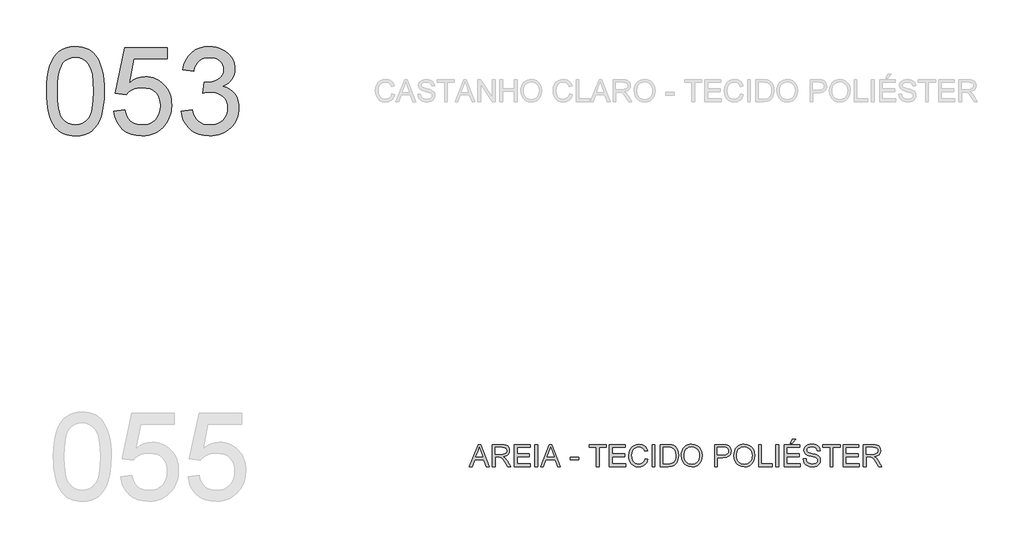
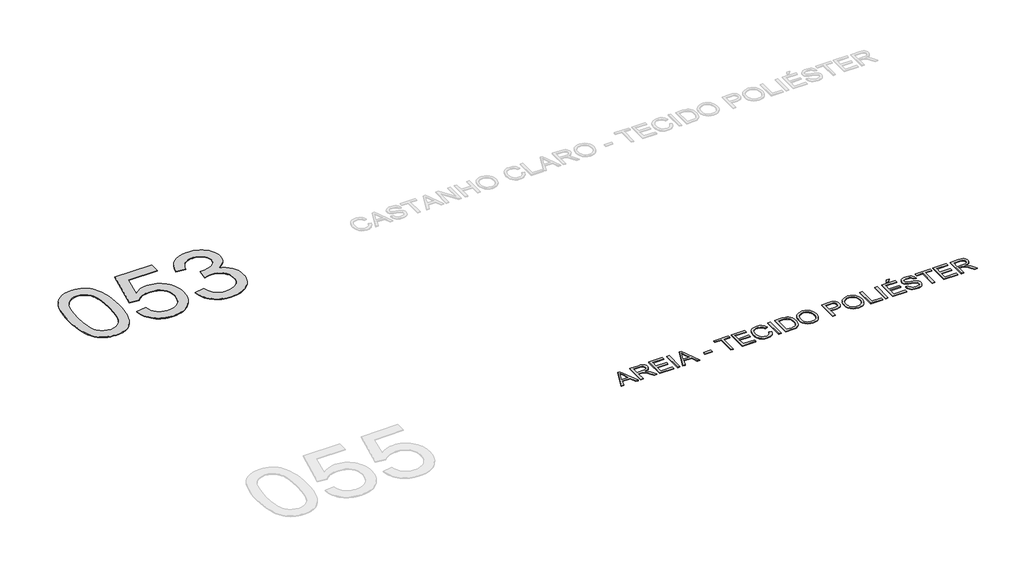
# One storey, part 21 of 35: 2 proxies.
"""IFC4 building model written with IfcOpenShell, lengths in millimetres."""

from ifc_helpers import new_model, si_unit, origin, origin_with_axes, place, context, project, spatial, polyline, outline, extrude, element, save

model = new_model("IFC4")

# Units and contexts
model_context = context("Model", 3, world=origin())
ifc_project = project(units=[si_unit("LENGTHUNIT", "METRE", prefix="MILLI")], contexts=[model_context])

# Site, building, storey
site = spatial("IfcSite", under=ifc_project)
building = spatial("IfcBuilding", under=site)
storey = spatial("IfcBuildingStorey", under=building, Name="Marelli - Linha YOU - Planta Baixa", Elevation=0.0)

# Proxies
placement = place(None, origin())
element("IfcBuildingElementProxy", 1, Name="1200mm Arial", ObjectType="1200mm Arial", at=placement, inside=storey, context=model_context, shape_type="SweptSolid", body=[
    extrude(outline(polyline([(-25228.2202746, -34887.5405438), (-25225.4519626, -34786.1798571), (-25217.1470265, -34694.5864374), (-25203.3054665, -34612.7602846), (-25183.9272824, -34540.7013988), (-25159.0952477, -34477.8211688), (-25128.8921359, -34423.5309833), (-25093.317947, -34377.8308425), (-25052.3726809, -34340.7207462), (-25005.918382, -34312.0075565), (-24953.8170944, -34291.4981353), (-24896.0688182, -34279.1924825), (-24832.6735534, -34275.0905983), (-24785.032835, -34277.5186194), (-24739.8201378, -34284.8026829), (-24697.0354618, -34296.9427888), (-24656.6788069, -34313.938937), (-24619.7250605, -34335.5060189), (-24587.1491098, -34361.3589261), (-24558.9509549, -34391.4976586), (-24535.1305957, -34425.9222163), (-24514.4924157, -34464.4946435), (-24495.8407986, -34507.0769844), (-24464.4972526, -34604.2714076), (-24452.5226937, -34661.4310726), (-24443.9694373, -34727.6958169), (-24438.8374834, -34803.0656407), (-24437.1268322, -34887.5405438), (-24439.867553, -34988.2574371), (-24448.0897156, -35079.3910043), (-24461.7933199, -35160.9412456), (-24480.978366, -35232.9081609), (-24505.6172626, -35295.8159821), (-24535.6824187, -35350.188941), (-24571.1738342, -35396.0270376), (-24612.0915091, -35433.3302719), (-24658.6009903, -35462.2365997), (-24710.8678248, -35482.8839766), (-24768.8920125, -35495.2724028), (-24832.6735534, -35499.4018782), (-24875.3478648, -35497.6084535), (-24915.6677315, -35492.2281793), (-24953.6331534, -35483.2610557), (-24989.2441305, -35470.7070826), (-25022.5006629, -35454.5662601), (-25053.4027505, -35434.8385881), (-25081.9503933, -35411.5240666), (-25108.1435914, -35384.6226957), (-25136.286564, -35342.0265592), (-25160.6771403, -35293.8478134), (-25181.3153202, -35240.0864583), (-25198.2011038, -35180.742494), (-25211.334491, -35115.8159204), (-25220.7154819, -35045.3067375), (-25226.3440764, -34969.2149453), (-25228.2202746, -34887.5405438)]), holes=[polyline([(-25077.5358094, -34887.2462382), (-25073.1212254, -35018.2398197), (-25059.8774736, -35124.2726077), (-25049.9446597, -35167.9287043), (-25037.8045539, -35205.3446024), (-25023.4571561, -35236.5203023), (-25006.9024663, -35261.4558037), (-24969.5256556, -35299.6327578), (-24928.0285665, -35326.9020107), (-24882.4111991, -35343.2635624), (-24832.6735534, -35348.717413), (-24782.9359076, -35343.2451683), (-24737.3185402, -35326.8284343), (-24695.8214512, -35299.4672109), (-24658.4446405, -35261.1614981), (-24641.8899507, -35236.1662158), (-24627.5425529, -35204.9583263), (-24615.402447, -35167.5378296), (-24605.4696332, -35123.9047257), (-24592.2258813, -35018.0006964), (-24587.8112974, -34887.2462382), (-24592.0787285, -34759.7199446), (-24604.881022, -34655.5541577), (-24614.482742, -34612.2314542), (-24626.2181777, -34574.7488774), (-24640.0873289, -34543.1064273), (-24656.0901957, -34517.3041039), (-24692.841607, -34477.2601487), (-24734.8169427, -34448.6573236), (-24782.0162026, -34431.4956285), (-24834.4393869, -34425.7750635), (-24883.9195153, -34430.8150468), (-24928.7643305, -34445.9349968), (-24968.9738326, -34471.1349135), (-25004.5480215, -34506.4147968), (-25021.6545343, -34534.9624397), (-25036.4801787, -34568.954736), (-25049.0249547, -34608.3916859), (-25059.2888624, -34653.2732893), (-25072.9740726, -34759.3704567), (-25077.5358094, -34887.2462382)])]), origin_with_axes(), (0.0, 0.0, 1.0), 10.0),
    extrude(outline(polyline([(-24305.2779251, -35160.3618315), (-24154.5934599, -35141.5262733), (-24143.3362708, -35189.967135), (-24126.9287338, -35231.9884559), (-24105.3708489, -35267.590236), (-24078.6626161, -35296.7724753), (-24046.8592176, -35319.4983855), (-24010.0158358, -35335.7311786), (-23968.1324706, -35345.4708544), (-23921.2091221, -35348.717413), (-23863.8195309, -35344.2016615), (-23813.1989683, -35330.654407), (-23769.3474345, -35308.0756496), (-23732.2649294, -35276.4653891), (-23702.7791875, -35237.3871242), (-23681.7179433, -35192.4043532), (-23669.0811967, -35141.5170763), (-23664.8689479, -35084.7252933), (-23668.8144823, -35031.0513102), (-23680.6510855, -34983.3370154), (-23700.3787575, -34941.5824089), (-23727.9974983, -34905.7874908), (-23763.5992783, -34877.0743011), (-23807.2760682, -34856.5648798), (-23859.0278679, -34844.2592271), (-23918.8546774, -34840.1573429), (-23957.141996, -34841.7944177), (-23991.9528298, -34846.7056424), (-24023.2871787, -34854.8910168), (-24051.1450428, -34866.3505409), (-24098.4178792, -34896.4432881), (-24135.7579017, -34934.3351336), (-24286.4423669, -34915.4995755), (-24154.5934599, -34293.9261564), (-23570.6911571, -34293.9261564), (-23570.6911571, -34444.6106216), (-24032.7509431, -34444.6106216), (-24097.2038686, -34776.5873341), (-24044.0265262, -34738.4747594), (-23989.5615968, -34711.2514918), (-23933.8090805, -34694.9175312), (-23876.7689771, -34689.4728776), (-23839.3300863, -34691.1605363), (-23803.3857161, -34696.2235123), (-23768.9358665, -34704.6618055), (-23735.9805376, -34716.4754161), (-23704.5197292, -34731.664344), (-23674.5534414, -34750.2285891), (-23646.0816742, -34772.1681516), (-23619.1044277, -34797.4830314), (-23594.5138156, -34825.4512601), (-23573.2019517, -34855.3508693), (-23555.1688362, -34887.1818589), (-23540.4144689, -34920.944229), (-23528.9388499, -34956.6379796), (-23520.7419792, -34994.2631106), (-23515.8238568, -35033.8196222), (-23514.1844827, -35075.3075142), (-23520.0889887, -35153.3720736), (-23527.4696212, -35190.3626082), (-23537.8025067, -35225.9919794), (-23551.0876453, -35260.2601873), (-23567.3250369, -35293.1672317), (-23586.5146814, -35324.7131128), (-23608.656579, -35354.8978305), (-23638.6573557, -35388.7659667), (-23671.2700946, -35418.1183514), (-23706.4947956, -35442.9549846), (-23744.3314588, -35463.2758663), (-23784.7800842, -35479.0809965), (-23827.8406717, -35490.3703752), (-23873.5132214, -35497.1440025), (-23921.7977333, -35499.4018782), (-23999.55879, -35493.5985397), (-24035.6181234, -35486.3443667), (-24069.79666, -35476.1885243), (-24102.0943999, -35463.1310128), (-24132.5113431, -35447.171832), (-24161.0474896, -35428.3109819), (-24187.7028394, -35406.5484626), (-24212.0405327, -35382.3901119), (-24233.6237095, -35356.3417673), (-24252.4523698, -35328.4034291), (-24268.5265138, -35298.5750971), (-24281.8461413, -35266.8567713), (-24292.4112523, -35233.2484518), (-24305.2779251, -35160.3618315)])), origin_with_axes(), (0.0, 0.0, 1.0), 10.0),
    extrude(outline(polyline([(-23382.3355756, -35160.3618315), (-23231.6511104, -35141.5262733), (-23216.7426925, -35192.7170529), (-23197.9163314, -35236.2190989), (-23175.1720271, -35272.0324111), (-23148.5097795, -35300.1569896), (-23117.3225833, -35321.4021749), (-23081.0034333, -35336.5773072), (-23039.5523295, -35345.6823865), (-22992.9692719, -35348.717413), (-22938.3755838, -35344.5419524), (-22889.6680076, -35332.0155704), (-22846.8465434, -35311.1382672), (-22809.9111911, -35281.9100427), (-22780.1679318, -35246.5197947), (-22758.9227466, -35207.1564213), (-22746.1756354, -35163.8199222), (-22741.9265984, -35116.5102976), (-22746.1388472, -35071.4539503), (-22758.7755938, -35030.462699), (-22779.836838, -34993.5365437), (-22809.3225799, -34960.6754845), (-22845.301439, -34933.7005372), (-22885.8420349, -34914.4327177), (-22930.9443675, -34902.872026), (-22980.6084369, -34899.0184621), (-23028.212367, -34903.1387404), (-23086.2641459, -34915.4995755), (-23069.4887269, -34764.8151103), (-23045.355668, -34766.5809438), (-22999.0209307, -34763.8770112), (-22955.0774264, -34755.7652132), (-22913.525155, -34742.2455498), (-22874.3641166, -34723.3180212), (-22841.1443725, -34698.7802921), (-22817.4159838, -34668.4300275), (-22803.1789506, -34632.2672274), (-22798.4332728, -34590.2918917), (-22801.8729695, -34556.2168219), (-22812.1920595, -34525.2135668), (-22829.3905427, -34497.2821263), (-22853.4684193, -34472.4225005), (-22882.9725553, -34452.0142468), (-22916.4498169, -34437.4369227), (-22953.900204, -34428.6905283), (-22995.3237167, -34425.7750635), (-23036.6368647, -34428.7181195), (-23074.3447692, -34437.5472873), (-23108.4474302, -34452.2625671), (-23138.9448476, -34472.8639589), (-23165.0828633, -34499.3514625), (-23186.1073194, -34531.7250781), (-23202.0182157, -34569.9848056), (-23212.8155522, -34614.130645), (-23363.5000174, -34595.2950869), (-23345.6393466, -34523.3557627), (-23319.1334488, -34459.988089), (-23283.9823242, -34405.1920659), (-23240.1859727, -34358.9676932), (-23189.1239517, -34322.2714642), (-23132.1758189, -34296.059872), (-23069.3415741, -34280.3329167), (-23000.6212174, -34275.0905983), (-22952.2907203, -34277.6749693), (-22905.8916036, -34285.4280823), (-22861.4238675, -34298.3499374), (-22818.8875118, -34316.4405345), (-22779.7632616, -34339.0100949), (-22745.5318419, -34365.3688399), (-22716.1932528, -34395.5167694), (-22691.7474942, -34429.4538834), (-22672.4980688, -34465.8282157), (-22658.7484793, -34503.2877999), (-22650.4987255, -34541.8326359), (-22647.7488076, -34581.4627239), (-22650.3607698, -34618.72917), (-22658.1966563, -34654.3033589), (-22671.2564671, -34688.1852907), (-22689.5402023, -34720.3749652), (-22712.9374972, -34750.1182245), (-22741.3379872, -34776.6609105), (-22774.7416724, -34800.0030231), (-22813.1485526, -34820.1445623), (-22762.9326603, -34835.8531235), (-22718.8236091, -34858.257137), (-22680.821399, -34887.3566028), (-22648.92603, -34923.151521), (-22623.6893251, -34964.7589746), (-22605.6631074, -35011.296047), (-22594.8473767, -35062.7627381), (-22591.2421332, -35119.159048), (-22593.0447549, -35158.1361454), (-22598.4526203, -35195.6049266), (-22607.4657291, -35231.5653916), (-22620.0840816, -35266.0175405), (-22636.3076776, -35298.9613731), (-22656.1365171, -35330.3968896), (-22679.5706002, -35360.3240899), (-22706.6099268, -35388.7429741), (-22736.4037699, -35414.6786547), (-22768.1014023, -35437.1562446), (-22801.7028241, -35456.1757438), (-22837.2080351, -35471.7371522), (-22874.6170355, -35483.8404698), (-22913.9298252, -35492.4856967), (-22955.1464043, -35497.6728328), (-22998.2667726, -35499.4018782), (-23074.491922, -35493.4973722), (-23110.066111, -35486.1167397), (-23143.9480427, -35475.7838541), (-23176.1377173, -35462.4987156), (-23206.6351347, -35446.261324), (-23235.4402949, -35427.0716794), (-23262.553198, -35404.9297819), (-23287.4082253, -35380.4426366), (-23309.4397582, -35354.2172488), (-23328.6477969, -35326.2536187), (-23345.0323413, -35296.5517461), (-23358.5933913, -35265.1116311), (-23369.3309471, -35231.9332736), (-23382.3355756, -35160.3618315)])), origin_with_axes(), (0.0, 0.0, 1.0), 10.0),
])
element("IfcBuildingElementProxy", 2, Name="300mm Arial", ObjectType="300mm Arial", at=placement, inside=storey, context=model_context, shape_type="SweptSolid", body=[
    extrude(outline(polyline([(-19432.6175582, -40030.5663201), (-19312.3201458, -39729.1973896), (-19280.2408358, -39729.1973896), (-19159.9434234, -40030.5663201), (-19199.7482553, -40030.5663201), (-19234.2555864, -39936.3885293), (-19358.3789716, -39936.3885293), (-19392.8127264, -40030.5663201), (-19432.6175582, -40030.5663201)]), holes=[polyline([(-19344.5466086, -39898.717413), (-19248.0143731, -39898.717413), (-19275.1640643, -39824.6259792), (-19296.2804908, -39766.8685059), (-19315.0424726, -39818.1512561), (-19344.5466086, -39898.717413)])]), origin_with_axes(), (0.0, 0.0, 1.0), 10.0),
    extrude(outline(polyline([(-19119.6971331, -40030.5663201), (-19119.6971331, -39729.1973896), (-18989.8347888, -39729.1973896), (-18954.9319846, -39731.2299376), (-18929.5389298, -39737.3275817), (-18910.9792832, -39748.5847708), (-18896.5767031, -39766.0959537), (-18887.3336679, -39787.8101885), (-18884.2526562, -39811.6765329), (-18889.3570189, -39841.3646099), (-18904.670107, -39865.9759154), (-18916.2698861, -39876.0052983), (-18930.6517729, -39884.0205273), (-18967.7618691, -39894.0085235), (-18946.351137, -39910.1217548), (-18915.8169314, -39948.8965171), (-18865.5642509, -40030.5663201), (-18909.3422083, -40030.5663201), (-18948.558429, -39968.0999573), (-18976.8853426, -39926.750021), (-18996.7877586, -39907.2154871), (-19014.7036117, -39900.0417882), (-19036.5558022, -39898.717413), (-19082.0260168, -39898.717413), (-19082.0260168, -40030.5663201), (-19119.6971331, -40030.5663201)]), holes=[polyline([(-19082.0260168, -39861.0462967), (-18997.7074635, -39861.0462967), (-18973.4916312, -39859.7127245), (-18954.7020583, -39855.7120078), (-18940.5569956, -39848.7774322), (-18930.2746938, -39838.6422832), (-18924.0115029, -39826.3826157), (-18921.9237725, -39813.0744845), (-18925.9060951, -39794.6987789), (-18937.8530629, -39779.8915286), (-18958.4084694, -39770.1242616), (-18988.2161081, -39766.8685059), (-19082.0260168, -39766.8685059), (-19082.0260168, -39861.0462967)])]), origin_with_axes(), (0.0, 0.0, 1.0), 10.0),
    extrude(outline(polyline([(-18818.3282027, -40030.5663201), (-18818.3282027, -39729.1973896), (-18601.7192839, -39729.1973896), (-18601.7192839, -39766.8685059), (-18780.6570864, -39766.8685059), (-18780.6570864, -39856.3374072), (-18611.137063, -39856.3374072), (-18611.137063, -39894.0085235), (-18780.6570864, -39894.0085235), (-18780.6570864, -39992.8952038), (-18597.0103944, -39992.8952038), (-18597.0103944, -40030.5663201), (-18818.3282027, -40030.5663201)])), origin_with_axes(), (0.0, 0.0, 1.0), 10.0),
    extrude(outline(polyline([(-18535.7948304, -40030.5663201), (-18535.7948304, -39729.1973896), (-18498.1237141, -39729.1973896), (-18498.1237141, -40030.5663201), (-18535.7948304, -40030.5663201)])), origin_with_axes(), (0.0, 0.0, 1.0), 10.0),
    extrude(outline(polyline([(-18457.8774238, -40030.5663201), (-18337.5800114, -39729.1973896), (-18305.5007014, -39729.1973896), (-18185.203289, -40030.5663201), (-18225.0081209, -40030.5663201), (-18259.515452, -39936.3885293), (-18383.6388372, -39936.3885293), (-18418.0725919, -40030.5663201), (-18457.8774238, -40030.5663201)]), holes=[polyline([(-18369.8064742, -39898.717413), (-18273.2742386, -39898.717413), (-18300.4239299, -39824.6259792), (-18321.5403564, -39766.8685059), (-18340.3023382, -39818.1512561), (-18369.8064742, -39898.717413)])]), origin_with_axes(), (0.0, 0.0, 1.0), 10.0),
    extrude(outline(polyline([(-18050.779208, -39941.0974188), (-18050.779208, -39903.4263025), (-17933.0569695, -39903.4263025), (-17933.0569695, -39941.0974188), (-18050.779208, -39941.0974188)])), origin_with_axes(), (0.0, 0.0, 1.0), 10.0),
    extrude(outline(polyline([(-17692.903603, -40030.5663201), (-17692.903603, -39766.8685059), (-17791.7902834, -39766.8685059), (-17791.7902834, -39729.1973896), (-17556.3458064, -39729.1973896), (-17556.3458064, -39766.8685059), (-17655.2324867, -39766.8685059), (-17655.2324867, -40030.5663201), (-17692.903603, -40030.5663201)])), origin_with_axes(), (0.0, 0.0, 1.0), 10.0),
    extrude(outline(polyline([(-17513.9658006, -40030.5663201), (-17513.9658006, -39729.1973896), (-17297.3568818, -39729.1973896), (-17297.3568818, -39766.8685059), (-17476.2946843, -39766.8685059), (-17476.2946843, -39856.3374072), (-17306.7746609, -39856.3374072), (-17306.7746609, -39894.0085235), (-17476.2946843, -39894.0085235), (-17476.2946843, -39992.8952038), (-17292.6479923, -39992.8952038), (-17292.6479923, -40030.5663201), (-17513.9658006, -40030.5663201)])), origin_with_axes(), (0.0, 0.0, 1.0), 10.0),
    extrude(outline(polyline([(-17024.2412886, -39923.4390831), (-16986.5701723, -39933.1511677), (-16994.0243812, -39956.5783531), (-17003.9525966, -39977.0486868), (-17016.3548183, -39994.5621691), (-17031.2310465, -40009.1187997), (-17048.2455888, -40020.5622291), (-17067.0627529, -40028.7361071), (-17087.6825387, -40033.640434), (-17110.1049463, -40035.2752096), (-17153.8001303, -40030.3271968), (-17188.5005995, -40015.4831583), (-17215.0984677, -39991.2581289), (-17234.4858489, -39958.1671434), (-17246.3224521, -39919.2636224), (-17250.2679865, -39877.6009865), (-17245.8074173, -39833.6574821), (-17232.4257097, -39795.7104543), (-17210.8218395, -39764.9647166), (-17181.6947826, -39742.6250824), (-17147.1506632, -39729.0226457), (-17109.2956059, -39724.4885001), (-17067.9916549, -39730.3562179), (-17050.0229187, -39737.6908652), (-17033.8430087, -39747.9593714), (-17019.7186393, -39760.8904235), (-17007.9165251, -39776.2127086), (-16991.2790618, -39814.0309777), (-17028.9501782, -39823.0072984), (-17042.009989, -39795.5357104), (-17059.8522657, -39776.6909552), (-17082.6977376, -39765.7924511), (-17110.7671339, -39762.1596164), (-17143.1223554, -39766.1879242), (-17169.7018295, -39778.2728478), (-17189.8709599, -39797.1451941), (-17202.9951501, -39821.5357704), (-17210.1964401, -39849.1085259), (-17212.5968701, -39877.5274101), (-17209.7549817, -39912.3290468), (-17201.2293165, -39942.421794), (-17186.6979777, -39966.6560205), (-17165.8390686, -39983.8820949), (-17140.8322899, -39994.1735937), (-17113.8573426, -39997.6040933), (-17082.4126291, -39992.931992), (-17056.210234, -39978.9156879), (-17036.4273797, -39955.702334), (-17024.2412886, -39923.4390831)])), origin_with_axes(), (0.0, 0.0, 1.0), 10.0),
    extrude(outline(polyline([(-16930.0634979, -40030.5663201), (-16930.0634979, -39729.1973896), (-16892.3923815, -39729.1973896), (-16892.3923815, -40030.5663201), (-16930.0634979, -40030.5663201)])), origin_with_axes(), (0.0, 0.0, 1.0), 10.0),
    extrude(outline(polyline([(-16817.0501489, -40030.5663201), (-16817.0501489, -39729.1973896), (-16713.0866971, -39729.1973896), (-16659.3023494, -39733.5383972), (-16635.2796551, -39741.9077126), (-16615.0093572, -39755.0962821), (-16594.1688422, -39778.0521186), (-16579.3248036, -39806.5997614), (-16570.4404535, -39840.1873876), (-16567.4790034, -39878.2631741), (-16569.4839603, -39910.6091985), (-16575.4988309, -39939.0740679), (-16584.6590926, -39963.3082943), (-16596.1002226, -39982.9623899), (-16609.2703981, -39998.477813), (-16623.6177959, -40010.2960221), (-16640.0897122, -40019.0608107), (-16659.6334432, -40025.4159721), (-16708.083502, -40030.5663201), (-16817.0501489, -40030.5663201)]), holes=[polyline([(-16779.3790326, -39992.8952038), (-16712.7188151, -39992.8952038), (-16685.1460596, -39991.5340404), (-16664.2319681, -39987.4505502), (-16648.4498305, -39980.8838566), (-16636.2729365, -39972.0730828), (-16623.1855345, -39955.7667134), (-16613.3538882, -39934.6594839), (-16607.2010618, -39908.6594239), (-16605.1501197, -39877.6745629), (-16609.1692305, -39836.6189322), (-16621.2265629, -39806.3054558), (-16639.0412485, -39785.4833349), (-16660.332419, -39772.9017706), (-16682.0006685, -39768.3768221), (-16713.7488847, -39766.8685059), (-16779.3790326, -39766.8685059), (-16779.3790326, -39992.8952038)])]), origin_with_axes(), (0.0, 0.0, 1.0), 10.0),
    extrude(outline(polyline([(-16529.8078871, -39883.8549804), (-16527.2970925, -39848.5061192), (-16519.7647086, -39817.213157), (-16507.2107355, -39789.9760937), (-16489.6351732, -39766.7949295), (-16468.0910839, -39748.2858666), (-16443.6315297, -39735.0651074), (-16416.2565108, -39727.1326519), (-16385.966027, -39724.4885001), (-16346.4371066, -39729.454907), (-16310.9916764, -39744.3541278), (-16281.5611168, -39768.1376988), (-16260.0768082, -39799.7571563), (-16246.943421, -39837.68579), (-16242.5656253, -39880.3968896), (-16247.1733473, -39923.6782064), (-16260.9965132, -39962.140269), (-16283.271768, -39993.8149087), (-16313.2357565, -40016.733957), (-16348.3776841, -40030.6398965), (-16386.1867562, -40035.2752096), (-16426.3226819, -40030.1524528), (-16461.9704472, -40014.7841825), (-16491.3274304, -39990.5591531), (-16512.5910097, -39958.8661192), (-16525.5036678, -39922.3998164), (-16529.8078871, -39883.8549804)]), holes=[polyline([(-16492.1367708, -39884.2228624), (-16490.2536748, -39909.1974513), (-16484.6043869, -39931.3669401), (-16475.1889071, -39950.7313286), (-16462.0072354, -39967.2906169), (-16445.9836752, -39980.5527628), (-16428.0425302, -39990.0257242), (-16408.1838002, -39995.709501), (-16386.4074854, -39997.6040933), (-16364.25869, -39995.6911069), (-16344.1654353, -39989.9521478), (-16326.1277212, -39980.3872159), (-16310.1455478, -39966.9963113), (-16297.0604451, -39950.0875351), (-16287.7139431, -39929.9689885), (-16282.106042, -39906.6406715), (-16280.2367416, -39880.102584), (-16283.4373149, -39846.7540812), (-16293.039035, -39817.9305269), (-16308.7935814, -39794.358488), (-16330.4526339, -39776.7645316), (-16356.5814526, -39765.8108452), (-16385.7452978, -39762.1596164), (-16406.7651553, -39763.9185522), (-16426.2674996, -39769.1953595), (-16444.2523306, -39777.9900385), (-16460.7196484, -39790.302589), (-16474.4646394, -39806.7262208), (-16484.2824902, -39827.8541437), (-16490.1732006, -39853.6863575), (-16492.1367708, -39884.2228624)])]), origin_with_axes(), (0.0, 0.0, 1.0), 10.0),
    extrude(outline(polyline([(-16073.0456019, -40030.5663201), (-16073.0456019, -39729.1973896), (-15961.3566282, -39729.1973896), (-15916.3278719, -39732.0668692), (-15896.2507121, -39737.4287493), (-15879.7236134, -39746.1567496), (-15866.4154822, -39758.6463433), (-15855.9952247, -39775.2930036), (-15849.2629842, -39794.9287051), (-15847.0189041, -39816.3854225), (-15848.534118, -39834.8852883), (-15853.0797599, -39851.9044291), (-15860.6558298, -39867.4428449), (-15871.2623275, -39881.5005356), (-15885.8235568, -39893.1531978), (-15905.2638209, -39901.476528), (-15929.5831201, -39906.470526), (-15958.7814542, -39908.1351921), (-16035.3744856, -39908.1351921), (-16035.3744856, -40030.5663201), (-16073.0456019, -40030.5663201)]), holes=[polyline([(-16035.3744856, -39870.4640758), (-15956.5741622, -39870.4640758), (-15923.1704771, -39867.005985), (-15901.0975573, -39856.6317127), (-15888.7919046, -39839.9850525), (-15884.6900204, -39817.7097977), (-15887.1088445, -39800.7872259), (-15894.3653168, -39786.5134045), (-15905.5581265, -39775.7712502), (-15919.7859627, -39769.4436799), (-15957.457079, -39766.8685059), (-16035.3744856, -39766.8685059), (-16035.3744856, -39870.4640758)])]), origin_with_axes(), (0.0, 0.0, 1.0), 10.0),
    extrude(outline(polyline([(-15809.3477877, -39883.8549804), (-15806.8369931, -39848.5061192), (-15799.3046093, -39817.213157), (-15786.7506362, -39789.9760937), (-15769.1750739, -39766.7949295), (-15747.6309845, -39748.2858666), (-15723.1714304, -39735.0651074), (-15695.7964114, -39727.1326519), (-15665.5059276, -39724.4885001), (-15625.9770072, -39729.454907), (-15590.531577, -39744.3541278), (-15561.1010174, -39768.1376988), (-15539.6167089, -39799.7571563), (-15526.4833217, -39837.68579), (-15522.1055259, -39880.3968896), (-15526.7132479, -39923.6782064), (-15540.5364139, -39962.140269), (-15562.8116687, -39993.8149087), (-15592.7756572, -40016.733957), (-15627.9175848, -40030.6398965), (-15665.7266568, -40035.2752096), (-15705.8625825, -40030.1524528), (-15741.5103478, -40014.7841825), (-15770.867331, -39990.5591531), (-15792.1309104, -39958.8661192), (-15805.0435684, -39922.3998164), (-15809.3477877, -39883.8549804)]), holes=[polyline([(-15771.6766714, -39884.2228624), (-15769.7935755, -39909.1974513), (-15764.1442876, -39931.3669401), (-15754.7288078, -39950.7313286), (-15741.547136, -39967.2906169), (-15725.5235759, -39980.5527628), (-15707.5824308, -39990.0257242), (-15687.7237009, -39995.709501), (-15665.947386, -39997.6040933), (-15643.7985907, -39995.6911069), (-15623.7053359, -39989.9521478), (-15605.6676219, -39980.3872159), (-15589.6854484, -39966.9963113), (-15576.6003457, -39950.0875351), (-15567.2538438, -39929.9689885), (-15561.6459426, -39906.6406715), (-15559.7766422, -39880.102584), (-15562.9772156, -39846.7540812), (-15572.5789356, -39817.9305269), (-15588.3334821, -39794.358488), (-15609.9925346, -39776.7645316), (-15636.1213533, -39765.8108452), (-15665.2851984, -39762.1596164), (-15686.3050559, -39763.9185522), (-15705.8074002, -39769.1953595), (-15723.7922312, -39777.9900385), (-15740.2595491, -39790.302589), (-15754.0045401, -39806.7262208), (-15763.8223908, -39827.8541437), (-15769.7131013, -39853.6863575), (-15771.6766714, -39884.2228624)])]), origin_with_axes(), (0.0, 0.0, 1.0), 10.0),
    extrude(outline(polyline([(-15470.307741, -40030.5663201), (-15470.307741, -39729.1973896), (-15432.6366247, -39729.1973896), (-15432.6366247, -39992.8952038), (-15281.9521595, -39992.8952038), (-15281.9521595, -40030.5663201), (-15470.307741, -40030.5663201)])), origin_with_axes(), (0.0, 0.0, 1.0), 10.0),
    extrude(outline(polyline([(-15234.8632641, -40030.5663201), (-15234.8632641, -39729.1973896), (-15197.1921478, -39729.1973896), (-15197.1921478, -40030.5663201), (-15234.8632641, -40030.5663201)])), origin_with_axes(), (0.0, 0.0, 1.0), 10.0),
    extrude(outline(polyline([(-15121.8499152, -40030.5663201), (-15121.8499152, -39729.1973896), (-14905.2409964, -39729.1973896), (-14905.2409964, -39766.8685059), (-15084.1787989, -39766.8685059), (-15084.1787989, -39856.3374072), (-14914.6587755, -39856.3374072), (-14914.6587755, -39894.0085235), (-15084.1787989, -39894.0085235), (-15084.1787989, -39992.8952038), (-14900.5321069, -39992.8952038), (-14900.5321069, -40030.5663201), (-15121.8499152, -40030.5663201)])), origin_with_axes(), (0.0, 0.0, 1.0), 10.0),
    extrude(outline(polyline([(-15037.0899035, -39710.3618315), (-15008.8365662, -39653.855157), (-14961.7476709, -39653.855157), (-15008.8365662, -39710.3618315), (-15037.0899035, -39710.3618315)])), origin_with_axes(), (0.0, 0.0, 1.0), 10.0),
    extrude(outline(polyline([(-14858.152101, -39926.9707502), (-14820.4809847, -39926.9707502), (-14816.1583713, -39947.8756446), (-14808.3408789, -39964.6786547), (-14796.1455907, -39978.0143771), (-14778.6895901, -39988.517408), (-14757.3524343, -39995.332422), (-14733.513681, -39997.6040933), (-14712.5260132, -39995.884245), (-14694.1503076, -39990.7247), (-14679.2602838, -39982.5577197), (-14668.7296617, -39971.8155654), (-14662.4664707, -39959.4823215), (-14660.3787404, -39946.5420724), (-14661.9422389, -39933.932917), (-14666.6327343, -39923.0344129), (-14676.160878, -39913.7361954), (-14692.2373212, -39905.9279001), (-14747.0885267, -39891.5437141), (-14783.0949769, -39882.0247675), (-14806.1335869, -39872.9656733), (-14824.8863716, -39860.2921386), (-14838.1761087, -39844.9330653), (-14846.0947686, -39827.2195472), (-14848.7343219, -39807.4826782), (-14845.4693692, -39785.4189555), (-14835.6745111, -39764.845155), (-14819.607265, -39747.4075484), (-14797.5251482, -39734.7524077), (-14771.0192505, -39727.054477), (-14741.6806613, -39724.4885001), (-14709.895657, -39727.1740386), (-14682.0837781, -39735.2306543), (-14659.2383062, -39748.4928003), (-14642.3525226, -39766.7949295), (-14631.6655507, -39788.9966079), (-14627.4165136, -39813.9574013), (-14665.0876299, -39813.9574013), (-14672.0038115, -39791.4798114), (-14686.4247857, -39775.2562154), (-14708.9575579, -39765.4337661), (-14740.2091334, -39762.1596164), (-14772.1964728, -39765.3969779), (-14794.1406339, -39775.1090626), (-14806.8325627, -39789.4012781), (-14811.0632056, -39806.3790322), (-14808.0649674, -39820.8551887), (-14799.0702526, -39832.4986539), (-14777.8066733, -39842.9097143), (-14737.560383, -39853.541504), (-14696.0265057, -39863.6398648), (-14670.9001655, -39872.4506385), (-14649.425054, -39886.1174547), (-14634.4430597, -39902.9848441), (-14625.641483, -39922.868866), (-14622.7076241, -39945.5855792), (-14626.0829414, -39968.8081301), (-14636.2088933, -39990.6511236), (-14652.6716126, -40009.4498935), (-14675.057232, -40023.539774), (-14701.976997, -40032.3413507), (-14732.0421531, -40035.2752096), (-14768.9499142, -40032.1114244), (-14799.32777, -40022.620069), (-14823.5252082, -40006.764355), (-14841.8917168, -39984.5074943), (-14853.6823348, -39957.3945912), (-14858.152101, -39926.9707502)])), origin_with_axes(), (0.0, 0.0, 1.0), 10.0),
    extrude(outline(polyline([(-14490.858717, -40030.5663201), (-14490.858717, -39766.8685059), (-14589.7453973, -39766.8685059), (-14589.7453973, -39729.1973896), (-14354.3009204, -39729.1973896), (-14354.3009204, -39766.8685059), (-14453.1876007, -39766.8685059), (-14453.1876007, -40030.5663201), (-14490.858717, -40030.5663201)])), origin_with_axes(), (0.0, 0.0, 1.0), 10.0),
    extrude(outline(polyline([(-14311.9209146, -40030.5663201), (-14311.9209146, -39729.1973896), (-14095.3119958, -39729.1973896), (-14095.3119958, -39766.8685059), (-14274.2497983, -39766.8685059), (-14274.2497983, -39856.3374072), (-14104.7297749, -39856.3374072), (-14104.7297749, -39894.0085235), (-14274.2497983, -39894.0085235), (-14274.2497983, -39992.8952038), (-14090.6031063, -39992.8952038), (-14090.6031063, -40030.5663201), (-14311.9209146, -40030.5663201)])), origin_with_axes(), (0.0, 0.0, 1.0), 10.0),
    extrude(outline(polyline([(-14034.0964318, -40030.5663201), (-14034.0964318, -39729.1973896), (-13904.2340875, -39729.1973896), (-13869.3312832, -39731.2299376), (-13843.9382285, -39737.3275817), (-13825.3785819, -39748.5847708), (-13810.9760017, -39766.0959537), (-13801.7329666, -39787.8101885), (-13798.6519549, -39811.6765329), (-13803.7563176, -39841.3646099), (-13819.0694056, -39865.9759154), (-13830.6691848, -39876.0052983), (-13845.0510715, -39884.0205273), (-13882.1611678, -39894.0085235), (-13860.7504357, -39910.1217548), (-13830.2162301, -39948.8965171), (-13779.9635496, -40030.5663201), (-13823.741507, -40030.5663201), (-13862.9577277, -39968.0999573), (-13891.2846413, -39926.750021), (-13911.1870572, -39907.2154871), (-13929.1029104, -39900.0417882), (-13950.9551009, -39898.717413), (-13996.4253155, -39898.717413), (-13996.4253155, -40030.5663201), (-14034.0964318, -40030.5663201)]), holes=[polyline([(-13996.4253155, -39861.0462967), (-13912.1067622, -39861.0462967), (-13887.8909299, -39859.7127245), (-13869.101357, -39855.7120078), (-13854.9562943, -39848.7774322), (-13844.6739925, -39838.6422832), (-13838.4108015, -39826.3826157), (-13836.3230712, -39813.0744845), (-13840.3053938, -39794.6987789), (-13852.2523616, -39779.8915286), (-13872.8077681, -39770.1242616), (-13902.6154067, -39766.8685059), (-13996.4253155, -39766.8685059), (-13996.4253155, -39861.0462967)])]), origin_with_axes(), (0.0, 0.0, 1.0), 10.0),
])

save(model, "model.ifc")
